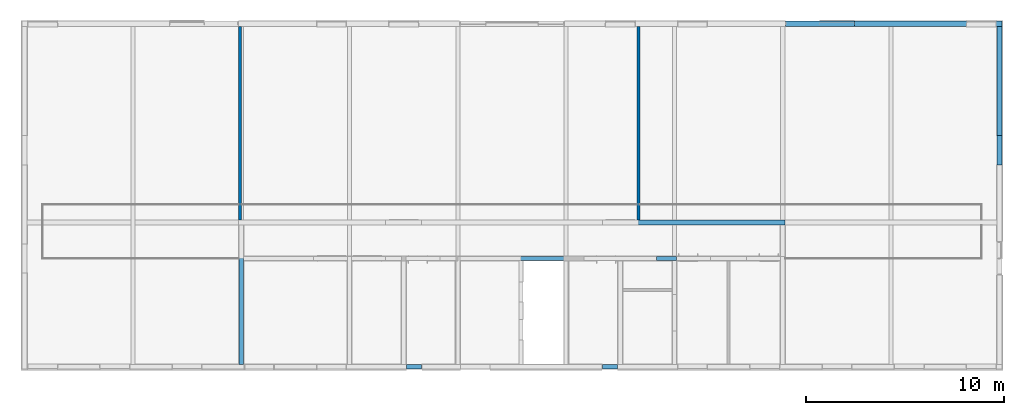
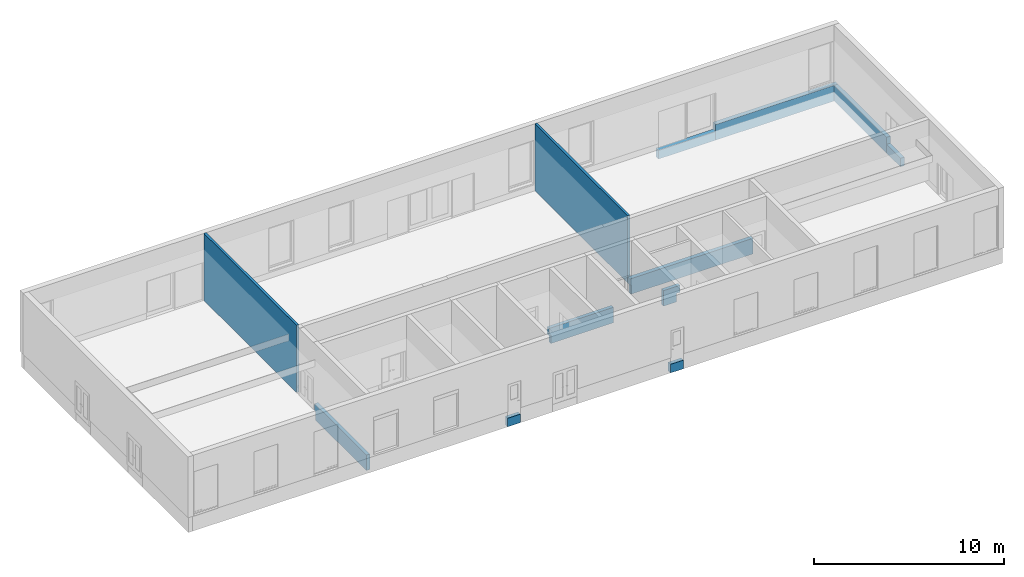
# One storey, part 19 of 22: 12 walls.
"""IFC4X3 building model written with IfcOpenShell, lengths in millimetres."""

from ifc_helpers import new_model, entity, si_unit, converted_unit, derived_unit, direction, frame, frame_2d, origin, place, context, subcontext, project, spatial, rectangle, extrude, faceted_brep, material, layer, layer_set, type_object, element, save


model = new_model("IFC4X3")

# Units and contexts
model_context = context("Model", 3, precision=0.01, world=origin(), true_north=direction((6.12303176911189e-17, 1.0)))
body_context = subcontext(model_context, "Body", "Model", "MODEL_VIEW")
ifc_project = project(units=[si_unit("LENGTHUNIT", "METRE", prefix="MILLI"), si_unit("AREAUNIT", "SQUARE_METRE"), si_unit("VOLUMEUNIT", "CUBIC_METRE"), converted_unit("PLANEANGLEUNIT", "DEGREE", entity("IfcPlaneAngleMeasure", 0.0174532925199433), si_unit("PLANEANGLEUNIT", "RADIAN"), dimensions=[0, 0, 0, 0, 0, 0, 0]), si_unit("MASSUNIT", "GRAM", prefix="KILO"), derived_unit("MASSDENSITYUNIT", [(si_unit("MASSUNIT", "GRAM", prefix="KILO"), 1), (si_unit("LENGTHUNIT", "METRE"), -3)]), derived_unit("IONCONCENTRATIONUNIT", [(si_unit("MASSUNIT", "GRAM", prefix="KILO"), 1), (si_unit("LENGTHUNIT", "METRE"), -3)]), derived_unit("MOMENTOFINERTIAUNIT", [(si_unit("LENGTHUNIT", "METRE"), 4)]), si_unit("TIMEUNIT", "SECOND"), si_unit("FREQUENCYUNIT", "HERTZ"), si_unit("THERMODYNAMICTEMPERATUREUNIT", "DEGREE_CELSIUS"), derived_unit("THERMALTRANSMITTANCEUNIT", [(si_unit("MASSUNIT", "GRAM", prefix="KILO"), 1), (si_unit("THERMODYNAMICTEMPERATUREUNIT", "KELVIN"), -1), (si_unit("TIMEUNIT", "SECOND"), -3)]), derived_unit("THERMALCONDUCTANCEUNIT", [(si_unit("MASSUNIT", "GRAM", prefix="KILO"), 1), (si_unit("THERMODYNAMICTEMPERATUREUNIT", "KELVIN"), -1), (si_unit("TIMEUNIT", "SECOND"), -3), (si_unit("LENGTHUNIT", "METRE"), 1)]), derived_unit("VOLUMETRICFLOWRATEUNIT", [(si_unit("LENGTHUNIT", "METRE", prefix="DECI"), 3), (si_unit("TIMEUNIT", "SECOND"), -1)]), derived_unit("MASSFLOWRATEUNIT", [(si_unit("MASSUNIT", "GRAM", prefix="KILO"), 1), (si_unit("TIMEUNIT", "SECOND"), -1)]), derived_unit("ROTATIONALFREQUENCYUNIT", [(si_unit("TIMEUNIT", "SECOND"), -1)]), si_unit("ELECTRICCURRENTUNIT", "AMPERE"), si_unit("ELECTRICVOLTAGEUNIT", "VOLT"), si_unit("POWERUNIT", "WATT"), si_unit("FORCEUNIT", "NEWTON", prefix="KILO"), si_unit("ILLUMINANCEUNIT", "LUX"), si_unit("LUMINOUSFLUXUNIT", "LUMEN"), si_unit("LUMINOUSINTENSITYUNIT", "CANDELA"), si_unit("ENERGYUNIT", "JOULE"), derived_unit("USERDEFINED", [(si_unit("MASSUNIT", "GRAM", prefix="KILO"), -1), (si_unit("LENGTHUNIT", "METRE"), -2), (si_unit("TIMEUNIT", "SECOND"), 3), (si_unit("LUMINOUSFLUXUNIT", "LUMEN"), 1)]), derived_unit("USERDEFINED", [(si_unit("MASSUNIT", "GRAM", prefix="KILO"), 1), (si_unit("TIMEUNIT", "SECOND"), -3), (si_unit("LENGTHUNIT", "METRE"), 3), (si_unit("ELECTRICCURRENTUNIT", "AMPERE"), -2)]), derived_unit("SOUNDPOWERUNIT", [(si_unit("MASSUNIT", "GRAM", prefix="KILO"), 1), (si_unit("TIMEUNIT", "SECOND"), -3), (si_unit("LENGTHUNIT", "METRE"), 2)]), derived_unit("SOUNDPRESSUREUNIT", [(si_unit("MASSUNIT", "GRAM", prefix="KILO"), 1), (si_unit("LENGTHUNIT", "METRE"), -1), (si_unit("TIMEUNIT", "SECOND"), -2)]), derived_unit("LINEARVELOCITYUNIT", [(si_unit("LENGTHUNIT", "METRE"), 1), (si_unit("TIMEUNIT", "SECOND"), -1)]), si_unit("PRESSUREUNIT", "PASCAL"), derived_unit("USERDEFINED", [(si_unit("MASSUNIT", "GRAM", prefix="KILO"), 1), (si_unit("LENGTHUNIT", "METRE"), -2), (si_unit("TIMEUNIT", "SECOND"), -2)]), derived_unit("LINEARFORCEUNIT", [(si_unit("MASSUNIT", "GRAM", prefix="KILO"), 1), (si_unit("TIMEUNIT", "SECOND"), -2)]), derived_unit("PLANARFORCEUNIT", [(si_unit("MASSUNIT", "GRAM", prefix="KILO"), 1), (si_unit("LENGTHUNIT", "METRE"), -1), (si_unit("TIMEUNIT", "SECOND"), -2)]), derived_unit("SPECIFICHEATCAPACITYUNIT", [(si_unit("THERMODYNAMICTEMPERATUREUNIT", "KELVIN"), -1), (si_unit("LENGTHUNIT", "METRE"), 2), (si_unit("TIMEUNIT", "SECOND"), -2)]), derived_unit("HEATFLUXDENSITYUNIT", [(si_unit("MASSUNIT", "GRAM", prefix="KILO"), 1), (si_unit("TIMEUNIT", "SECOND"), -3)]), derived_unit("HEATINGVALUEUNIT", [(si_unit("LENGTHUNIT", "METRE"), 2), (si_unit("TIMEUNIT", "SECOND"), -2)]), derived_unit("VAPORPERMEABILITYUNIT", [(si_unit("LENGTHUNIT", "METRE"), -1), (si_unit("TIMEUNIT", "SECOND"), 1)]), derived_unit("DYNAMICVISCOSITYUNIT", [(si_unit("MASSUNIT", "GRAM", prefix="KILO"), 1), (si_unit("TIMEUNIT", "SECOND"), -1), (si_unit("LENGTHUNIT", "METRE"), -1)]), derived_unit("THERMALEXPANSIONCOEFFICIENTUNIT", [(si_unit("THERMODYNAMICTEMPERATUREUNIT", "KELVIN"), -1)]), derived_unit("MODULUSOFELASTICITYUNIT", [(si_unit("MASSUNIT", "GRAM", prefix="KILO"), 1), (si_unit("LENGTHUNIT", "METRE"), -1), (si_unit("TIMEUNIT", "SECOND"), -2)]), derived_unit("ISOTHERMALMOISTURECAPACITYUNIT", [(si_unit("MASSUNIT", "GRAM", prefix="KILO"), -1), (si_unit("LENGTHUNIT", "METRE"), 3)]), derived_unit("MOISTUREDIFFUSIVITYUNIT", [(si_unit("TIMEUNIT", "SECOND"), -1), (si_unit("LENGTHUNIT", "METRE"), 2)]), derived_unit("AREADENSITYUNIT", [(si_unit("MASSUNIT", "GRAM", prefix="KILO"), 1), (si_unit("LENGTHUNIT", "METRE"), 2)]), derived_unit("MASSPERLENGTHUNIT", [(si_unit("MASSUNIT", "GRAM", prefix="KILO"), 1), (si_unit("LENGTHUNIT", "METRE"), -1)]), derived_unit("THERMALRESISTANCEUNIT", [(si_unit("MASSUNIT", "GRAM", prefix="KILO"), -1), (si_unit("TIMEUNIT", "SECOND"), 3), (si_unit("THERMODYNAMICTEMPERATUREUNIT", "KELVIN"), 1)]), derived_unit("ACCELERATIONUNIT", [(si_unit("LENGTHUNIT", "METRE"), 1), (si_unit("TIMEUNIT", "SECOND"), -2)]), derived_unit("ANGULARVELOCITYUNIT", [(si_unit("TIMEUNIT", "SECOND"), -1), (si_unit("PLANEANGLEUNIT", "RADIAN"), 1)]), derived_unit("LINEARSTIFFNESSUNIT", [(si_unit("MASSUNIT", "GRAM", prefix="KILO"), 1), (si_unit("TIMEUNIT", "SECOND"), -2)]), derived_unit("WARPINGCONSTANTUNIT", [(si_unit("LENGTHUNIT", "METRE"), 6)]), derived_unit("LINEARMOMENTUNIT", [(si_unit("MASSUNIT", "GRAM", prefix="KILO"), 1), (si_unit("LENGTHUNIT", "METRE"), 1), (si_unit("TIMEUNIT", "SECOND"), -2)]), derived_unit("TORQUEUNIT", [(si_unit("MASSUNIT", "GRAM", prefix="KILO"), 1), (si_unit("LENGTHUNIT", "METRE"), 2), (si_unit("TIMEUNIT", "SECOND"), -2)])], contexts=[model_context])

# Site, building, storey
site_placement = place(None, origin())
site = spatial("IfcSite", under=ifc_project, at=site_placement, Name="Default", CompositionType="ELEMENT")
building_placement = place(site_placement, origin())
building = spatial("IfcBuilding", under=site, at=building_placement, Name="事務所ビル", CompositionType="ELEMENT")
storey_placement = place(building_placement, origin())
storey = spatial("IfcBuildingStorey", under=building, at=storey_placement, Name="1FL", CompositionType="ELEMENT", Elevation=0.0)

# Walls
ifc_material_1 = material(Name="*コンクリート")
ifc_layer_1 = layer(ifc_material_1, 270.0, Name="*コンクリート")
ifc_layer_set_1 = layer_set([ifc_layer_1], Name="標準壁:(基礎梁)RC_w270h1000")
wall_type_1 = type_object("IfcWallType", Name="標準壁:(基礎梁)RC_w270h1000", PredefinedType="STANDARD", material=ifc_layer_set_1)
wall_1_placement = place(storey_placement, frame((41840.0, 17290.0, -600.0)))
element("IfcWall", 1, at=wall_1_placement, inside=storey, type_object=wall_type_1, material=ifc_layer_set_1, Name="標準壁:(基礎梁)RC_w270h1000", ObjectType="標準壁:(基礎梁)RC_w270h1000", PredefinedType="NOTDEFINED", context=body_context, shape_type="SweptSolid", body=[
    extrude(rectangle(XDim=7419.99999999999, YDim=269.999999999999, at=frame_2d((3710.0, 2.27373675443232e-13), x_axis=(-1.0, 0.0))), origin(), (0.0, 0.0, 1.0), 1000.0),
])
ifc_layer_2 = layer(ifc_material_1, 240.0, Name="*コンクリート")
ifc_layer_set_2 = layer_set([ifc_layer_2], Name="標準壁:(基礎梁)RC_w240h1000")
wall_type_2 = type_object("IfcWallType", Name="標準壁:(基礎梁)RC_w240h1000", PredefinedType="STANDARD", material=ifc_layer_set_2)
wall_2_placement = place(storey_placement, frame((49140.0, 11660.0, -600.0), z_axis=(0.0, 0.0, 1.0), x_axis=(0.0, 1.0, 0.0)))
element("IfcWall", 2, at=wall_2_placement, inside=storey, type_object=wall_type_2, material=ifc_layer_set_2, Name="標準壁:(基礎梁)RC_w240h1000", ObjectType="標準壁:(基礎梁)RC_w240h1000", PredefinedType="NOTDEFINED", context=body_context, shape_type="SweptSolid", body=[
    extrude(rectangle(XDim=5495.0, YDim=239.999999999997, at=frame_2d((2747.5, 2.8421709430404e-14), x_axis=(-1.0, 0.0))), origin(), (0.0, 0.0, 1.0), 1000.0),
])
wall_3_placement = place(storey_placement, frame((30865.0, 7280.0, -600.0)))
element("IfcWall", 3, at=wall_3_placement, inside=storey, type_object=wall_type_2, Name="標準壁:(基礎梁)RC_w240h1000", ObjectType="標準壁:(基礎梁)RC_w240h1000", PredefinedType="NOTDEFINED", context=body_context, shape_type="Brep", body=[
    faceted_brep([(75.0, -120.0, 0.0), (1790.0, -120.0, 0.0), (2000.0, -120.0, 0.0), (7460.0, -120.0, 0.0), (7460.0, -120.0, 1000.0), (0.0, -120.0, 1000.0), (0.0, -120.0, 600.0), (75.0, -120.0, 600.0), (75.0, -120.0, 550.0), (75.0, 120.0, 0.0), (75.0, 120.0, 550.0), (75.0, 120.0, 600.0), (0.0, 120.0, 600.0), (0.0, 120.0, 1000.0), (7460.0, 120.0, 1000.0), (7460.0, 120.0, 0.0), (2000.0, 120.0, 0.0), (1790.0, 120.0, 0.0)], [[[0, 1, 2, 3, 4, 5, 6, 7, 8]], [[9, 10, 11, 12, 13, 14, 15, 16, 17]], [[3, 2, 1, 0, 9, 17, 16, 15]], [[4, 3, 15, 14]], [[5, 4, 14, 13]], [[0, 8, 7, 11, 10, 9]], [[6, 12, 11, 7]], [[6, 5, 13, 12]]]),
])
ifc_layer_3 = layer(ifc_material_1, 240.0, Name="*コンクリート")
ifc_layer_set_3 = layer_set([ifc_layer_3], Name="標準壁:(基礎梁)RC_w240h650")
wall_type_3 = type_object("IfcWallType", Name="標準壁:(基礎梁)RC_w240h650", PredefinedType="STANDARD", material=ifc_layer_set_3)
wall_4_placement = place(storey_placement, frame((29120.0, 0.0, -600.0)))
element("IfcWall", 4, at=wall_4_placement, inside=storey, type_object=wall_type_3, material=ifc_layer_set_3, Name="標準壁:(基礎梁)RC_w240h650", ObjectType="標準壁:(基礎梁)RC_w240h650", PredefinedType="NOTDEFINED", context=body_context, shape_type="SweptSolid", body=[
    extrude(rectangle(XDim=777.999999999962, YDim=240.0, at=frame_2d((388.999999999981, 0.0), x_axis=(-1.0, 0.0))), origin(), (0.0, 0.0, 1.0), 550.0),
])
wall_5_placement = place(storey_placement, frame((49140.0, 10180.0, -600.0), z_axis=(0.0, 0.0, 1.0), x_axis=(0.0, 1.0, 0.0)))
element("IfcWall", 5, at=wall_5_placement, inside=storey, type_object=wall_type_3, material=ifc_layer_set_3, Name="標準壁:(基礎梁)RC_w240h650", ObjectType="標準壁:(基礎梁)RC_w240h650", PredefinedType="NOTDEFINED", context=body_context, shape_type="SweptSolid", body=[
    extrude(rectangle(XDim=1480.0, YDim=239.999999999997, at=frame_2d((740.0, -8.10018718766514e-13), x_axis=(-1.0, 0.0))), origin(), (0.0, 0.0, 1.0), 550.0),
])
wall_6_placement = place(storey_placement, frame((19242.0, 0.0, -600.0)))
element("IfcWall", 6, at=wall_6_placement, inside=storey, type_object=wall_type_3, material=ifc_layer_set_3, Name="標準壁:(基礎梁)RC_w240h650", ObjectType="標準壁:(基礎梁)RC_w240h650", PredefinedType="NOTDEFINED", context=body_context, shape_type="SweptSolid", body=[
    extrude(rectangle(XDim=777.999999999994, YDim=240.0, at=frame_2d((388.999999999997, 0.0), x_axis=(-1.0, 0.0))), origin(), (0.0, 0.0, 1.0), 550.0),
])
ifc_layer_4 = layer(ifc_material_1, 270.0, Name="*コンクリート")
ifc_layer_set_4 = layer_set([ifc_layer_4], Name="標準壁:(基礎梁)RC_w270h650")
wall_type_4 = type_object("IfcWallType", Name="標準壁:(基礎梁)RC_w270h650", PredefinedType="STANDARD", material=ifc_layer_set_4)
wall_7_placement = place(storey_placement, frame((38360.0, 17290.0, -600.0)))
element("IfcWall", 7, at=wall_7_placement, inside=storey, type_object=wall_type_4, material=ifc_layer_set_4, Name="標準壁:(基礎梁)RC_w270h650", ObjectType="標準壁:(基礎梁)RC_w270h650", PredefinedType="NOTDEFINED", context=body_context, shape_type="SweptSolid", body=[
    extrude(rectangle(XDim=3480.0, YDim=269.999999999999, at=frame_2d((1740.0, -1.98951966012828e-13), x_axis=(-1.0, 0.0))), origin(), (0.0, 0.0, 1.0), 550.0),
])
ifc_layer_5 = layer(ifc_material_1, 210.0, Name="*コンクリート")
ifc_layer_set_5 = layer_set([ifc_layer_5], Name="標準壁:(基礎梁)RC_w210h1000")
wall_type_5 = type_object("IfcWallType", Name="標準壁:(基礎梁)RC_w210h1000", PredefinedType="STANDARD", material=ifc_layer_set_5)
wall_8_placement = place(storey_placement, frame((10920.0, 120.0, -600.0), z_axis=(0.0, 0.0, 1.0), x_axis=(0.0, 1.0, 0.0)))
element("IfcWall", 8, at=wall_8_placement, inside=storey, type_object=wall_type_5, Name="標準壁:(基礎梁)RC_w210h1000", ObjectType="標準壁:(基礎梁)RC_w210h1000", PredefinedType="NOTDEFINED", context=body_context, shape_type="Brep", body=[
    faceted_brep([(0.0, -105.0, 0.0), (5235.0, -105.0, 0.0), (5340.0, -105.0, 0.0), (5340.0, -105.0, 550.0), (5445.0, -105.0, 550.0), (5445.0, -105.0, 1000.0), (5235.0, -105.0, 1000.0), (0.0, -105.0, 1000.0), (0.0, 105.0, 0.0), (0.0, 105.0, 1000.0), (5445.0, 105.0, 1000.0), (5445.0, 105.0, 550.0), (5340.0, 105.0, 550.0), (5340.0, 105.0, 0.0)], [[[0, 1, 2, 3, 4, 5, 6, 7]], [[8, 9, 10, 11, 12, 13]], [[2, 1, 0, 8, 13]], [[7, 6, 5, 10, 9]], [[0, 7, 9, 8]], [[3, 2, 13, 12]], [[11, 4, 3, 12]], [[5, 4, 11, 10]]]),
])
wall_9_placement = place(storey_placement, frame((24920.0, 5460.0, -600.0)))
element("IfcWall", 9, at=wall_9_placement, inside=storey, type_object=wall_type_5, Name="標準壁:(基礎梁)RC_w210h1000", ObjectType="標準壁:(基礎梁)RC_w210h1000", PredefinedType="NOTDEFINED", context=body_context, shape_type="Brep", body=[
    faceted_brep([(105.0, -105.0, 0.0), (210.0, -105.0, 0.0), (2275.0, -105.0, 0.0), (2485.0, -105.0, 0.0), (3915.0, -105.0, 0.0), (3915.0, -105.0, 1000.0), (2485.0, -105.0, 1000.0), (2275.0, -105.0, 1000.0), (210.0, -105.0, 1000.0), (0.0, -105.0, 1000.0), (0.0, -105.0, 550.0), (105.0, -105.0, 550.0), (105.0, 105.0, 0.0), (105.0, 105.0, 550.0), (0.0, 105.0, 550.0), (0.0, 105.0, 1000.0), (3915.0, 105.0, 1000.0), (3915.0, 105.0, 0.0), (2485.0, 105.0, 0.0), (2275.0, 105.0, 0.0)], [[[0, 1, 2, 3, 4, 5, 6, 7, 8, 9, 10, 11]], [[12, 13, 14, 15, 16, 17, 18, 19]], [[4, 3, 2, 1, 0, 12, 19, 18, 17]], [[5, 4, 17, 16]], [[9, 8, 7, 6, 5, 16, 15]], [[0, 11, 13, 12]], [[10, 14, 13, 11]], [[10, 9, 15, 14]]]),
])
wall_10_placement = place(storey_placement, frame((31850.0, 5460.0, -600.0)))
element("IfcWall", 10, at=wall_10_placement, inside=storey, type_object=wall_type_5, Name="標準壁:(基礎梁)RC_w210h1000", ObjectType="標準壁:(基礎梁)RC_w210h1000", PredefinedType="NOTDEFINED", context=body_context, shape_type="Brep", body=[
    faceted_brep([(0.0, -105.0, 0.0), (805.0, -105.0, 0.0), (805.0, -105.0, 550.0), (1015.0, -105.0, 550.0), (1015.0, -105.0, 1000.0), (805.0, -105.0, 1000.0), (0.0, -105.0, 1000.0), (0.0, -105.0, 550.0), (0.0, 105.0, 0.0), (0.0, 105.0, 550.0), (0.0, 105.0, 1000.0), (1015.0, 105.0, 1000.0), (1015.0, 105.0, 550.0), (805.0, 105.0, 550.0), (805.0, 105.0, 0.0)], [[[0, 1, 2, 3, 4, 5, 6, 7]], [[8, 9, 10, 11, 12, 13, 14]], [[1, 0, 8, 14]], [[6, 5, 4, 11, 10]], [[0, 7, 6, 10, 9, 8]], [[12, 3, 2, 13]], [[2, 1, 14, 13]], [[4, 3, 12, 11]]]),
])
ifc_material_2 = material(Name="<Unnamed>")
ifc_layer_6 = layer(ifc_material_2, 15.0, Name="Layer")
ifc_material_3 = material(Name="天然木材", Category="一般")
ifc_layer_7 = layer(ifc_material_3, 120.0, Name="天然木材", Category="一般")
ifc_layer_8 = layer(ifc_material_2, 15.0, Name="Layer")
ifc_layer_set_6 = layer_set([ifc_layer_6, ifc_layer_7, ifc_layer_8], Name="標準壁:GB-R15_木120_GB-R15")
wall_type_6 = type_object("IfcWallType", Name="標準壁:GB-R15_木120_GB-R15", PredefinedType="STANDARD", material=ifc_layer_set_6)
wall_11_placement = place(storey_placement, frame((30940.0, 7400.0, 0.0), z_axis=(0.0, 0.0, 1.0), x_axis=(0.0, 1.0, 0.0)))
element("IfcWall", 11, at=wall_11_placement, inside=storey, type_object=wall_type_6, Name="標準壁:GB-R15_木120_GB-R15", ObjectType="標準壁:GB-R15_木120_GB-R15", PredefinedType="NOTDEFINED", context=body_context, shape_type="Brep", body=[
    faceted_brep([(0.0, -75.0, 0.0), (9755.0, -75.0, 0.0), (9755.0, -75.0, 4300.0), (12.0, -75.0, 4300.0), (12.0, -75.0, 400.0), (0.0, -75.0, 400.0), (0.0, 75.0, 0.0), (0.0, 75.0, 400.0), (12.0, 75.0, 400.0), (12.0, 75.0, 4300.0), (9755.0, 75.0, 4300.0), (9755.0, 75.0, 0.0), (0.0, 60.0, 0.0), (9755.0, 60.0, 0.0), (0.0, -60.0, 0.0), (9755.0, -60.0, 0.0)], [[[0, 1, 2, 3, 4, 5]], [[6, 7, 8, 9, 10, 11]], [[3, 2, 10, 9]], [[12, 6, 11, 13]], [[1, 0, 14, 15]], [[14, 12, 13, 15]], [[4, 8, 7, 5]], [[0, 5, 7, 6, 12, 14]], [[4, 3, 9, 8]], [[2, 1, 15, 13, 11, 10]]]),
])
wall_12_placement = place(storey_placement, frame((10863.0, 7400.0, 0.0), z_axis=(0.0, 0.0, 1.0), x_axis=(0.0, 1.0, 0.0)))
element("IfcWall", 12, at=wall_12_placement, inside=storey, type_object=wall_type_6, Name="標準壁:GB-R15_木120_GB-R15", ObjectType="標準壁:GB-R15_木120_GB-R15", PredefinedType="NOTDEFINED", context=body_context, shape_type="Brep", body=[
    faceted_brep([(0.0, -75.0, 0.0), (9755.0, -75.0, 0.0), (9755.0, -75.0, 4300.0), (9743.0, -75.0, 4300.0), (12.0, -75.0, 4300.0), (12.0, -75.0, 400.0), (0.0, -75.0, 400.0), (0.0, 75.0, 0.0), (0.0, 75.0, 400.0), (12.0, 75.0, 400.0), (12.0, 75.0, 4300.0), (9743.0, 75.0, 4300.0), (9755.0, 75.0, 4300.0), (9755.0, 75.0, 0.0), (0.0, 60.0, 0.0), (9755.0, 60.0, 0.0), (0.0, -60.0, 0.0), (9755.0, -60.0, 0.0)], [[[0, 1, 2, 3, 4, 5, 6]], [[7, 8, 9, 10, 11, 12, 13]], [[4, 3, 2, 12, 11, 10]], [[14, 7, 13, 15]], [[1, 0, 16, 17]], [[5, 9, 8, 6]], [[0, 6, 8, 7, 14, 16]], [[5, 4, 10, 9]], [[16, 14, 15, 17]], [[2, 1, 17, 15, 13, 12]]]),
])

save(model, "model.ifc")
